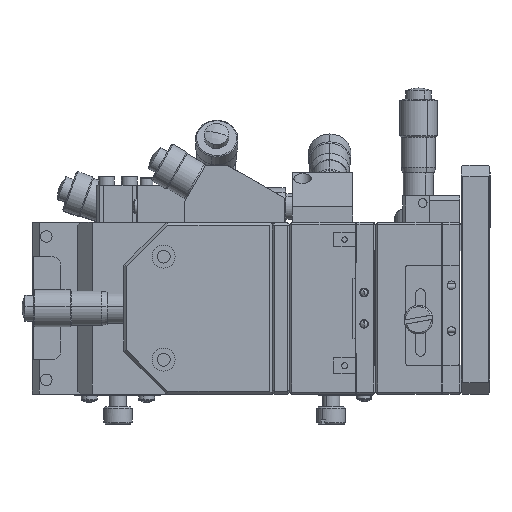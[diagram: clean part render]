
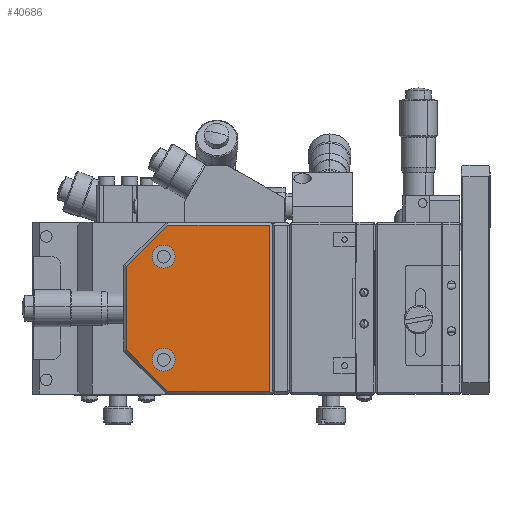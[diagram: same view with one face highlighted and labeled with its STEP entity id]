
A CAD part, left-side view. The second image highlights one B-rep face of the part: STEP entity #40686.
In plain terms, the highlighted planar face has unit normal (-1, 0, 0).
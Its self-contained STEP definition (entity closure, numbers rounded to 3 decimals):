
#2294 = CARTESIAN_POINT ( 'NONE',  ( -11.19, 111.282, 139. ) ) ;
#3158 = DIRECTION ( 'NONE',  ( 0., 1., 0. ) ) ;
#3392 = LINE ( 'NONE', #21312, #12957 ) ;
#6420 = EDGE_CURVE ( 'NONE', #49706, #9694, #82029, .T. ) ;
#8495 = EDGE_CURVE ( 'NONE', #60774, #23405, #68980, .T. ) ;
#9694 = VERTEX_POINT ( 'NONE', #11979 ) ;
#11979 = CARTESIAN_POINT ( 'NONE',  ( -11.19, 125.697, 124.586 ) ) ;
#12957 = VECTOR ( 'NONE', #100930, 1000. ) ;
#14080 = VERTEX_POINT ( 'NONE', #22054 ) ;
#14095 = EDGE_LOOP ( 'NONE', ( #87091, #69313 ) ) ;
#17422 = DIRECTION ( 'NONE',  ( -1., 0., 0. ) ) ;
#18100 = AXIS2_PLACEMENT_3D ( 'NONE', #26621, #95368, #43937 ) ;
#19816 = CARTESIAN_POINT ( 'NONE',  ( -11.19, 141.697, 110. ) ) ;
#20931 = DIRECTION ( 'NONE',  ( -1., 0., 0. ) ) ;
#21312 = CARTESIAN_POINT ( 'NONE',  ( -11.19, 125.697, 95. ) ) ;
#21543 = ORIENTED_EDGE ( 'NONE', *, *, #56312, .F. ) ;
#21758 = CARTESIAN_POINT ( 'NONE',  ( -11.19, 125.99, 124.293 ) ) ;
#22054 = CARTESIAN_POINT ( 'NONE',  ( -11.19, 108.697, 92. ) ) ;
#22133 = ORIENTED_EDGE ( 'NONE', *, *, #6420, .T. ) ;
#23274 = VERTEX_POINT ( 'NONE', #30825 ) ;
#23405 = VERTEX_POINT ( 'NONE', #76313 ) ;
#24719 = DIRECTION ( 'NONE',  ( 0., 1., 0. ) ) ;
#26621 = CARTESIAN_POINT ( 'NONE',  ( -11.19, 112.697, 128. ) ) ;
#26890 = CARTESIAN_POINT ( 'NONE',  ( -11.19, 75.697, 81. ) ) ;
#27009 = EDGE_LOOP ( 'NONE', ( #96830, #55304, #70655, #22133, #72140, #71542 ) ) ;
#27419 = DIRECTION ( 'NONE',  ( -1., 0., 0. ) ) ;
#30825 = CARTESIAN_POINT ( 'NONE',  ( -11.19, 116.697, 92. ) ) ;
#32181 = AXIS2_PLACEMENT_3D ( 'NONE', #19816, #20931, #3158 ) ;
#35306 = VECTOR ( 'NONE', #77330, 1000. ) ;
#36946 = CIRCLE ( 'NONE', #69920, 4. ) ;
#38633 = LINE ( 'NONE', #107817, #88329 ) ;
#39018 = FACE_OUTER_BOUND ( 'NONE', #27009, .T. ) ;
#40686 = ADVANCED_FACE ( 'NONE', ( #39018, #107683, #44439 ), #72411, .T. ) ;
#43192 = CARTESIAN_POINT ( 'NONE',  ( -11.19, 108.697, 128. ) ) ;
#43937 = DIRECTION ( 'NONE',  ( 0., 1., 0. ) ) ;
#44227 = EDGE_CURVE ( 'NONE', #48847, #49706, #48556, .T. ) ;
#44363 = VERTEX_POINT ( 'NONE', #26890 ) ;
#44385 = DIRECTION ( 'NONE',  ( 0., 1., 0. ) ) ;
#44439 = FACE_BOUND ( 'NONE', #14095, .T. ) ;
#44795 = EDGE_CURVE ( 'NONE', #23274, #14080, #48200, .T. ) ;
#45428 = AXIS2_PLACEMENT_3D ( 'NONE', #88454, #105092, #53503 ) ;
#48200 = CIRCLE ( 'NONE', #99006, 4. ) ;
#48556 = LINE ( 'NONE', #94506, #71474 ) ;
#48847 = VERTEX_POINT ( 'NONE', #98198 ) ;
#49706 = VERTEX_POINT ( 'NONE', #2294 ) ;
#53503 = DIRECTION ( 'NONE',  ( 0., 1., 0. ) ) ;
#55304 = ORIENTED_EDGE ( 'NONE', *, *, #62389, .T. ) ;
#56312 = EDGE_CURVE ( 'NONE', #14080, #23274, #36946, .T. ) ;
#59047 = ORIENTED_EDGE ( 'NONE', *, *, #44795, .F. ) ;
#59959 = CARTESIAN_POINT ( 'NONE',  ( -11.19, 110.99, 80.707 ) ) ;
#60774 = VERTEX_POINT ( 'NONE', #88223 ) ;
#62389 = EDGE_CURVE ( 'NONE', #44363, #48847, #38633, .T. ) ;
#63132 = VERTEX_POINT ( 'NONE', #43192 ) ;
#65912 = VECTOR ( 'NONE', #106708, 1000. ) ;
#66701 = EDGE_CURVE ( 'NONE', #9694, #60774, #3392, .T. ) ;
#67228 = VERTEX_POINT ( 'NONE', #79295 ) ;
#68980 = LINE ( 'NONE', #59959, #35306 ) ;
#69148 = EDGE_CURVE ( 'NONE', #23405, #44363, #79490, .T. ) ;
#69313 = ORIENTED_EDGE ( 'NONE', *, *, #70364, .F. ) ;
#69920 = AXIS2_PLACEMENT_3D ( 'NONE', #78205, #27419, #44385 ) ;
#70364 = EDGE_CURVE ( 'NONE', #63132, #67228, #84118, .T. ) ;
#70655 = ORIENTED_EDGE ( 'NONE', *, *, #44227, .T. ) ;
#71474 = VECTOR ( 'NONE', #24719, 1000. ) ;
#71542 = ORIENTED_EDGE ( 'NONE', *, *, #8495, .T. ) ;
#72140 = ORIENTED_EDGE ( 'NONE', *, *, #66701, .T. ) ;
#72411 = PLANE ( 'NONE',  #32181 ) ;
#76313 = CARTESIAN_POINT ( 'NONE',  ( -11.19, 111.282, 81. ) ) ;
#77330 = DIRECTION ( 'NONE',  ( 0., -0.707, -0.707 ) ) ;
#78205 = CARTESIAN_POINT ( 'NONE',  ( -11.19, 112.697, 92. ) ) ;
#79295 = CARTESIAN_POINT ( 'NONE',  ( -11.19, 116.697, 128. ) ) ;
#79490 = LINE ( 'NONE', #91923, #101068 ) ;
#81847 = DIRECTION ( 'NONE',  ( 0., 0., 1. ) ) ;
#82029 = LINE ( 'NONE', #21758, #65912 ) ;
#82332 = CIRCLE ( 'NONE', #18100, 4. ) ;
#84118 = CIRCLE ( 'NONE', #45428, 4. ) ;
#86136 = DIRECTION ( 'NONE',  ( 0., 1., 0. ) ) ;
#87091 = ORIENTED_EDGE ( 'NONE', *, *, #110154, .F. ) ;
#88223 = CARTESIAN_POINT ( 'NONE',  ( -11.19, 125.697, 95.414 ) ) ;
#88329 = VECTOR ( 'NONE', #81847, 1000. ) ;
#88454 = CARTESIAN_POINT ( 'NONE',  ( -11.19, 112.697, 128. ) ) ;
#89029 = EDGE_LOOP ( 'NONE', ( #59047, #21543 ) ) ;
#91923 = CARTESIAN_POINT ( 'NONE',  ( -11.19, 74.697, 81. ) ) ;
#94506 = CARTESIAN_POINT ( 'NONE',  ( -11.19, 111.697, 139. ) ) ;
#95368 = DIRECTION ( 'NONE',  ( -1., 0., 0. ) ) ;
#96830 = ORIENTED_EDGE ( 'NONE', *, *, #69148, .T. ) ;
#98198 = CARTESIAN_POINT ( 'NONE',  ( -11.19, 75.697, 139. ) ) ;
#99006 = AXIS2_PLACEMENT_3D ( 'NONE', #111480, #17422, #86136 ) ;
#99520 = DIRECTION ( 'NONE',  ( 0., -1., 0. ) ) ;
#100930 = DIRECTION ( 'NONE',  ( 0., 0., -1. ) ) ;
#101068 = VECTOR ( 'NONE', #99520, 1000. ) ;
#105092 = DIRECTION ( 'NONE',  ( -1., 0., 0. ) ) ;
#106708 = DIRECTION ( 'NONE',  ( 0., 0.707, -0.707 ) ) ;
#107683 = FACE_BOUND ( 'NONE', #89029, .T. ) ;
#107817 = CARTESIAN_POINT ( 'NONE',  ( -11.19, 75.697, 140. ) ) ;
#110154 = EDGE_CURVE ( 'NONE', #67228, #63132, #82332, .T. ) ;
#111480 = CARTESIAN_POINT ( 'NONE',  ( -11.19, 112.697, 92. ) ) ;
